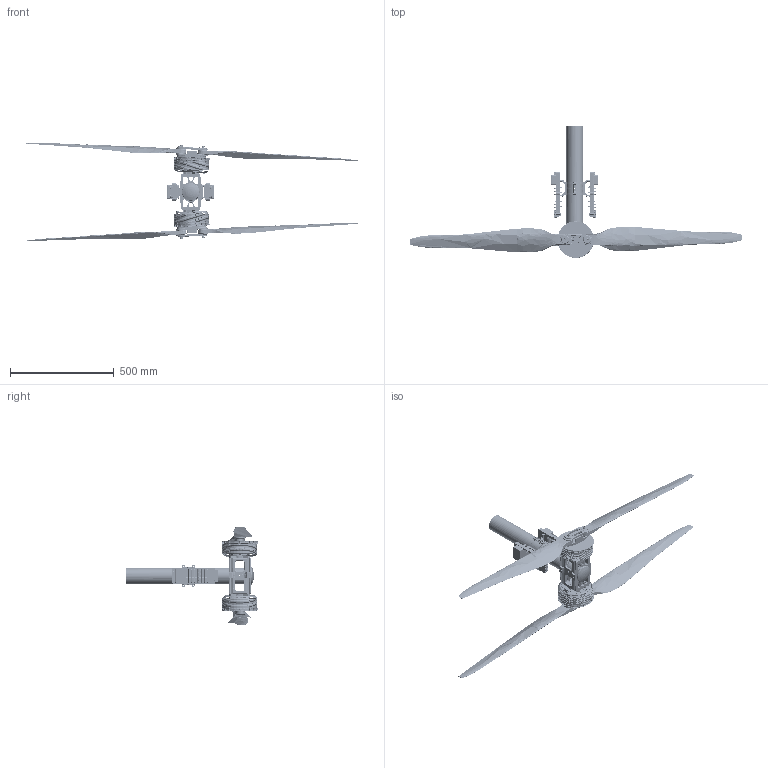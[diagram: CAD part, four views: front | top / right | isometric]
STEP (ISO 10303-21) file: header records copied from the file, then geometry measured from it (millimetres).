
FILE_DESCRIPTION (( 'STEP AP214' ), '1' );
FILE_NAME ('X-A16L KV35-A.STEP', '2026-03-12T01:59:58', ( '' ), ( '' ), 'SwSTEP 2.0', 'SolidWorks 2022', '' );
FILE_SCHEMA (( 'AUTOMOTIVE_DESIGN' ));
Length unit declared in the file: millimetre
Products named in the file (1): X-A16L KV35-A
Bounding box: 1599.45 x 635.35 x 474 mm (x, y, z)
Volume: 5891776.1 mm3; surface area: 1920577.4 mm2
Topology: 71 solids, 85 shells, 12443 faces, 32518 edges, 19750 vertices
Faces by surface type: cylinder 5106, plane 2699, bspline 2398, cone 1008, torus 682, sphere 550
Entity records: 497106 total; most frequent: CARTESIAN_POINT 209448, ORIENTED_EDGE 63672, DIRECTION 54034, EDGE_CURVE 31836, AXIS2_PLACEMENT_3D 20852, VERTEX_POINT 19564, EDGE_LOOP 13302, ADVANCED_FACE 12443
